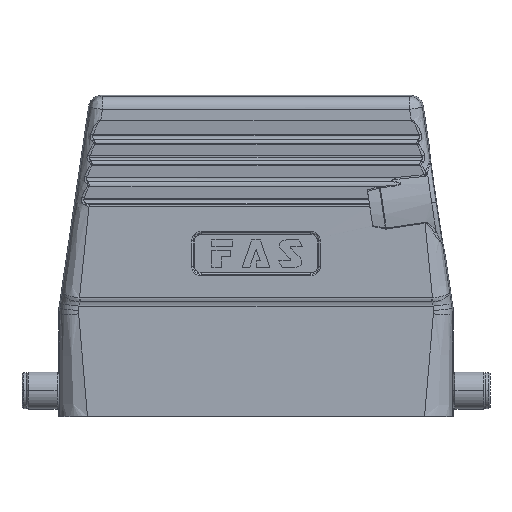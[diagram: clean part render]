
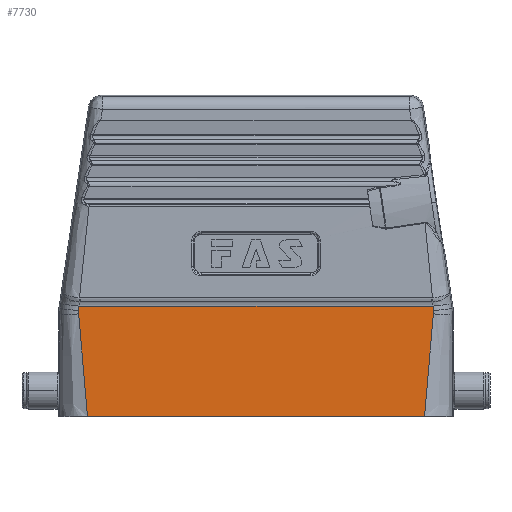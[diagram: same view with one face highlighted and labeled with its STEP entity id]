
A CAD part, top view. The second image highlights one B-rep face of the part: STEP entity #7730.
In plain terms, the highlighted planar face has unit normal (0, 0, 1).
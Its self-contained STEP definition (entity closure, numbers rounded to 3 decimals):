
#1105 = CARTESIAN_POINT ( 'NONE',  ( 42.027, 24.591, 21.5 ) ) ;
#1346 = CARTESIAN_POINT ( 'NONE',  ( 0., 0., 21.5 ) ) ;
#2168 = VERTEX_POINT ( 'NONE', #11261 ) ;
#2670 = EDGE_LOOP ( 'NONE', ( #20155, #22084, #6731, #26435, #12970, #3606, #14419, #22331 ) ) ;
#2964 = CARTESIAN_POINT ( 'NONE',  ( 42.032, 25.067, 21.5 ) ) ;
#3240 = CARTESIAN_POINT ( 'NONE',  ( 41.995, 24.247, 21.5 ) ) ;
#3366 = CARTESIAN_POINT ( 'NONE',  ( -43.718, -0.522, 21.5 ) ) ;
#3397 = CARTESIAN_POINT ( 'NONE',  ( 42.015, 24.425, 21.5 ) ) ;
#3460 = DIRECTION ( 'NONE',  ( 0., 0., 1. ) ) ;
#3467 = CARTESIAN_POINT ( 'NONE',  ( -42.032, 24.674, 21.5 ) ) ;
#3473 = EDGE_CURVE ( 'NONE', #18468, #2168, #17102, .T. ) ;
#3493 = CARTESIAN_POINT ( 'NONE',  ( 42.004, 24.32, 21.5 ) ) ;
#3606 = ORIENTED_EDGE ( 'NONE', *, *, #5918, .F. ) ;
#3652 = CARTESIAN_POINT ( 'NONE',  ( -42.034, 24.719, 21.5 ) ) ;
#3804 = CARTESIAN_POINT ( 'NONE',  ( -40.533, 8.089, 21.5 ) ) ;
#3896 = CARTESIAN_POINT ( 'NONE',  ( 41.995, 24.247, 21.5 ) ) ;
#4065 = CARTESIAN_POINT ( 'NONE',  ( 0., 26.086, 21.5 ) ) ;
#4440 = CARTESIAN_POINT ( 'NONE',  ( -42.032, 25.067, 21.5 ) ) ;
#4931 = VECTOR ( 'NONE', #6172, 1000. ) ;
#5187 = VERTEX_POINT ( 'NONE', #10684 ) ;
#5227 = PLANE ( 'NONE',  #11495 ) ;
#5583 = CARTESIAN_POINT ( 'NONE',  ( -42.013, 24.394, 21.5 ) ) ;
#5605 = CARTESIAN_POINT ( 'NONE',  ( 42.029, 24.623, 21.5 ) ) ;
#5918 = EDGE_CURVE ( 'NONE', #16352, #5187, #16080, .T. ) ;
#6172 = DIRECTION ( 'NONE',  ( -1., 0., 0. ) ) ;
#6507 = EDGE_CURVE ( 'NONE', #21741, #21831, #21187, .T. ) ;
#6731 = ORIENTED_EDGE ( 'NONE', *, *, #26675, .T. ) ;
#6813 = CARTESIAN_POINT ( 'NONE',  ( 41.947, 26.086, 21.5 ) ) ;
#7108 = LINE ( 'NONE', #1346, #21920 ) ;
#7499 =( BOUNDED_CURVE ( )  B_SPLINE_CURVE ( 3, ( #14467, #8270, #23016, #14558, #21100, #12511 ),
 .UNSPECIFIED., .F., .T. ) 
 B_SPLINE_CURVE_WITH_KNOTS ( ( 4, 1, 1, 4 ),
 ( 0., 0.314, 0.647, 1. ),
 .UNSPECIFIED. ) 
 CURVE ( )  GEOMETRIC_REPRESENTATION_ITEM ( )  RATIONAL_B_SPLINE_CURVE ( ( 1.169, 1.169, 1.169, 1.169, 1.169, 1.169 ) ) 
 REPRESENTATION_ITEM ( '' )  );
#7711 = CARTESIAN_POINT ( 'NONE',  ( -41.995, 24.247, 21.5 ) ) ;
#7730 = ADVANCED_FACE ( 'NONE', ( #20272 ), #5227, .T. ) ;
#7859 = CARTESIAN_POINT ( 'NONE',  ( 40.247, 4.041, 21.5 ) ) ;
#7947 = CARTESIAN_POINT ( 'NONE',  ( 40.533, 8.089, 21.5 ) ) ;
#8270 = CARTESIAN_POINT ( 'NONE',  ( -42.026, 25.174, 21.5 ) ) ;
#8670 = CARTESIAN_POINT ( 'NONE',  ( 42.01, 25.397, 21.5 ) ) ;
#9767 = CARTESIAN_POINT ( 'NONE',  ( 42.03, 24.637, 21.5 ) ) ;
#9935 = B_SPLINE_CURVE_WITH_KNOTS ( 'NONE', 3,
 ( #16129, #3493, #3397, #24231, #1105, #5605, #9767, #11886, #20379, #13919 ),
 .UNSPECIFIED., .F., .F.,
 ( 4, 1, 1, 2, 2, 4 ),
 ( 0., 0.25, 0.375, 0.438, 0.5, 1. ),
 .UNSPECIFIED. ) ;
#10661 = B_SPLINE_CURVE_WITH_KNOTS ( 'NONE', 3,
 ( #22812, #12052, #27043, #14451, #3652, #16099, #3467, #18522, #18238, #5583, #7711 ),
 .UNSPECIFIED., .F., .F.,
 ( 4, 1, 1, 1, 2, 2, 4 ),
 ( 0., 0.25, 0.375, 0.437, 0.469, 0.5, 1. ),
 .UNSPECIFIED. ) ;
#10684 = CARTESIAN_POINT ( 'NONE',  ( -41.995, 24.247, 21.5 ) ) ;
#11200 = LINE ( 'NONE', #4065, #4931 ) ;
#11261 = CARTESIAN_POINT ( 'NONE',  ( 39.888, 0., 21.5 ) ) ;
#11495 = AXIS2_PLACEMENT_3D ( 'NONE', #3366, #3460, #18138 ) ;
#11886 = CARTESIAN_POINT ( 'NONE',  ( 42.038, 24.799, 21.5 ) ) ;
#12052 = CARTESIAN_POINT ( 'NONE',  ( -42.035, 25.003, 21.5 ) ) ;
#12103 = CARTESIAN_POINT ( 'NONE',  ( 41.166, 16.18, 21.5 ) ) ;
#12511 = CARTESIAN_POINT ( 'NONE',  ( -41.947, 26.086, 21.5 ) ) ;
#12892 = CARTESIAN_POINT ( 'NONE',  ( 42.026, 25.175, 21.5 ) ) ;
#12970 = ORIENTED_EDGE ( 'NONE', *, *, #22650, .T. ) ;
#13163 = CARTESIAN_POINT ( 'NONE',  ( 41.98, 25.736, 21.5 ) ) ;
#13720 = CARTESIAN_POINT ( 'NONE',  ( -39.888, 0., 21.5 ) ) ;
#13919 = CARTESIAN_POINT ( 'NONE',  ( 42.032, 25.067, 21.5 ) ) ;
#14419 = ORIENTED_EDGE ( 'NONE', *, *, #20570, .F. ) ;
#14451 = CARTESIAN_POINT ( 'NONE',  ( -42.036, 24.781, 21.5 ) ) ;
#14467 = CARTESIAN_POINT ( 'NONE',  ( -42.032, 25.067, 21.5 ) ) ;
#14558 = CARTESIAN_POINT ( 'NONE',  ( -41.98, 25.734, 21.5 ) ) ;
#15034 = CARTESIAN_POINT ( 'NONE',  ( 42.032, 25.067, 21.5 ) ) ;
#15755 = EDGE_CURVE ( 'NONE', #17656, #18877, #7499, .T. ) ;
#16080 = B_SPLINE_CURVE_WITH_KNOTS ( 'NONE', 3,
 ( #16157, #20496, #3804, #16246, #24885, #27008 ),
 .UNSPECIFIED., .F., .F.,
 ( 4, 2, 4 ),
 ( 0., 0.5, 1. ),
 .UNSPECIFIED. ) ;
#16099 = CARTESIAN_POINT ( 'NONE',  ( -42.033, 24.692, 21.5 ) ) ;
#16129 = CARTESIAN_POINT ( 'NONE',  ( 41.995, 24.247, 21.5 ) ) ;
#16157 = CARTESIAN_POINT ( 'NONE',  ( -39.888, 0., 21.5 ) ) ;
#16246 = CARTESIAN_POINT ( 'NONE',  ( -41.166, 16.18, 21.5 ) ) ;
#16352 = VERTEX_POINT ( 'NONE', #13720 ) ;
#17102 = B_SPLINE_CURVE_WITH_KNOTS ( 'NONE', 3,
 ( #3240, #22236, #12103, #7947, #7859, #22598 ),
 .UNSPECIFIED., .F., .F.,
 ( 4, 2, 4 ),
 ( 0., 0.5, 1. ),
 .UNSPECIFIED. ) ;
#17656 = VERTEX_POINT ( 'NONE', #4440 ) ;
#18138 = DIRECTION ( 'NONE',  ( 1., 0., 0. ) ) ;
#18238 = CARTESIAN_POINT ( 'NONE',  ( -42.025, 24.531, 21.5 ) ) ;
#18334 = DIRECTION ( 'NONE',  ( -1., 0., 0. ) ) ;
#18468 = VERTEX_POINT ( 'NONE', #3896 ) ;
#18522 = CARTESIAN_POINT ( 'NONE',  ( -42.032, 24.663, 21.5 ) ) ;
#18877 = VERTEX_POINT ( 'NONE', #21669 ) ;
#18967 = EDGE_CURVE ( 'NONE', #18468, #21831, #9935, .T. ) ;
#19636 = CARTESIAN_POINT ( 'NONE',  ( 41.957, 25.968, 21.5 ) ) ;
#20155 = ORIENTED_EDGE ( 'NONE', *, *, #18967, .T. ) ;
#20272 = FACE_OUTER_BOUND ( 'NONE', #2670, .T. ) ;
#20379 = CARTESIAN_POINT ( 'NONE',  ( 42.038, 24.937, 21.5 ) ) ;
#20496 = CARTESIAN_POINT ( 'NONE',  ( -40.247, 4.041, 21.5 ) ) ;
#20570 = EDGE_CURVE ( 'NONE', #2168, #16352, #7108, .T. ) ;
#21100 = CARTESIAN_POINT ( 'NONE',  ( -41.958, 25.967, 21.5 ) ) ;
#21187 =( BOUNDED_CURVE ( )  B_SPLINE_CURVE ( 3, ( #6813, #19636, #13163, #8670, #12892, #15034 ),
 .UNSPECIFIED., .F., .F. ) 
 B_SPLINE_CURVE_WITH_KNOTS ( ( 4, 1, 1, 4 ),
 ( 0., 0.349, 0.682, 1. ),
 .UNSPECIFIED. ) 
 CURVE ( )  GEOMETRIC_REPRESENTATION_ITEM ( )  RATIONAL_B_SPLINE_CURVE ( ( 1.17, 1.17, 1.17, 1.17, 1.17, 1.17 ) ) 
 REPRESENTATION_ITEM ( '' )  );
#21333 = CARTESIAN_POINT ( 'NONE',  ( 41.947, 26.086, 21.5 ) ) ;
#21669 = CARTESIAN_POINT ( 'NONE',  ( -41.947, 26.086, 21.5 ) ) ;
#21741 = VERTEX_POINT ( 'NONE', #21333 ) ;
#21831 = VERTEX_POINT ( 'NONE', #2964 ) ;
#21920 = VECTOR ( 'NONE', #18334, 1000. ) ;
#22084 = ORIENTED_EDGE ( 'NONE', *, *, #6507, .F. ) ;
#22236 = CARTESIAN_POINT ( 'NONE',  ( 41.514, 20.223, 21.5 ) ) ;
#22331 = ORIENTED_EDGE ( 'NONE', *, *, #3473, .F. ) ;
#22598 = CARTESIAN_POINT ( 'NONE',  ( 39.888, 0., 21.5 ) ) ;
#22650 = EDGE_CURVE ( 'NONE', #17656, #5187, #10661, .T. ) ;
#22812 = CARTESIAN_POINT ( 'NONE',  ( -42.032, 25.067, 21.5 ) ) ;
#23016 = CARTESIAN_POINT ( 'NONE',  ( -42.01, 25.394, 21.5 ) ) ;
#24231 = CARTESIAN_POINT ( 'NONE',  ( 42.024, 24.542, 21.5 ) ) ;
#24885 = CARTESIAN_POINT ( 'NONE',  ( -41.514, 20.223, 21.5 ) ) ;
#26435 = ORIENTED_EDGE ( 'NONE', *, *, #15755, .F. ) ;
#26675 = EDGE_CURVE ( 'NONE', #21741, #18877, #11200, .T. ) ;
#27008 = CARTESIAN_POINT ( 'NONE',  ( -41.995, 24.247, 21.5 ) ) ;
#27043 = CARTESIAN_POINT ( 'NONE',  ( -42.038, 24.903, 21.5 ) ) ;
